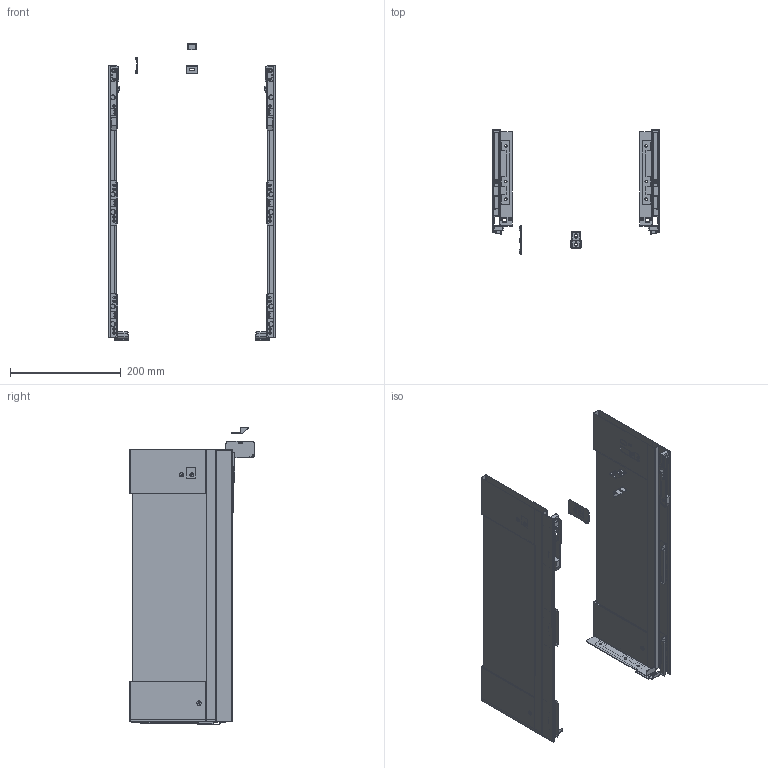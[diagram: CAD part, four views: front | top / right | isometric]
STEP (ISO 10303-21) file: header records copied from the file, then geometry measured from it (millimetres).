
FILE_DESCRIPTION (( 'STEP AP203' ), '1' );
FILE_NAME ('502927.STEP', '2026-03-06T07:57:54', ( '' ), ( '' ), 'SwSTEP 2.0', 'SolidWorks 2025', '' );
FILE_SCHEMA (( 'CONFIG_CONTROL_DESIGN' ));
Length unit declared in the file: millimetre
Products named in the file (6): 502927; StrongMax 16a18 + StrongBox podpěrka dna, široké zásuvky, přední; StrongMax 16a18 krytka pro tisk, plast; StrongMax 16a18 podpěrka dna, široké zásuvky, zadní; Bočnice_sklo_levá_16-185-500; Bočnice_sklo_pravá_16-185-500
Assembly tree (5 placements, depth 2):
  502927
    Bočnice_sklo_levá_16-185-500
    Bočnice_sklo_pravá_16-185-500
    StrongMax 16a18 + StrongBox podpěrka dna, široké zásuvky, přední
    StrongMax 16a18 krytka pro tisk, plast
    StrongMax 16a18 podpěrka dna, široké zásuvky, zadní
Bounding box: 300 x 224.5 x 535.9 mm (x, y, z)
Volume: 948506 mm3; surface area: 649034.6 mm2
Topology: 31 solids, 31 shells, 1865 faces, 5004 edges, 3182 vertices
Faces by surface type: plane 1228, cylinder 524, bspline 97, cone 16
Entity records: 61008 total; most frequent: CARTESIAN_POINT 13706, ORIENTED_EDGE 10008, DIRECTION 9256, EDGE_CURVE 5004, LINE 3720, VECTOR 3720, VERTEX_POINT 3182, AXIS2_PLACEMENT_3D 2768
